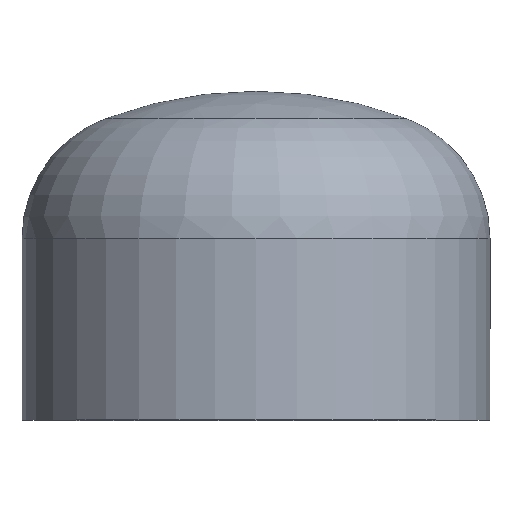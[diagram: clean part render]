
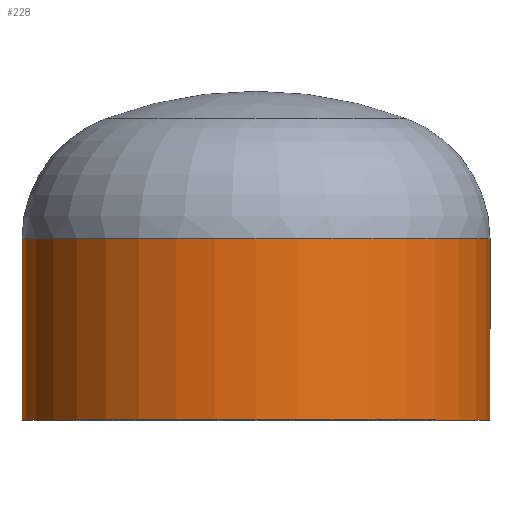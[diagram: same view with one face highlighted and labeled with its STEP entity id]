
A CAD part, top view. The second image highlights one B-rep face of the part: STEP entity #228.
In plain terms, the highlighted cylindrical face has radius 109.55 mm (diameter 219.1 mm), a partial arc.
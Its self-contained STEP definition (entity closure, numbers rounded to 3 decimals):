
#5 = AXIS2_PLACEMENT_3D ( 'NONE', #360, #246, #151 ) ;
#33 = VERTEX_POINT ( 'NONE', #238 ) ;
#38 = AXIS2_PLACEMENT_3D ( 'NONE', #95, #94, #88 ) ;
#51 = EDGE_CURVE ( 'NONE', #181, #287, #323, .T. ) ;
#56 = CARTESIAN_POINT ( 'NONE',  ( 109.55, 85., 0. ) ) ;
#79 = VECTOR ( 'NONE', #194, 1000. ) ;
#84 = VECTOR ( 'NONE', #250, 1000. ) ;
#85 = ORIENTED_EDGE ( 'NONE', *, *, #51, .T. ) ;
#88 = DIRECTION ( 'NONE',  ( 1., 0., 0. ) ) ;
#94 = DIRECTION ( 'NONE',  ( 0., -1., 0. ) ) ;
#95 = CARTESIAN_POINT ( 'NONE',  ( 0., 85., 0. ) ) ;
#97 = CARTESIAN_POINT ( 'NONE',  ( 0., 0., 0. ) ) ;
#99 = LINE ( 'NONE', #304, #84 ) ;
#115 = CYLINDRICAL_SURFACE ( 'NONE', #5, 109.55 ) ;
#127 = DIRECTION ( 'NONE',  ( 1., 0., 0. ) ) ;
#144 = AXIS2_PLACEMENT_3D ( 'NONE', #97, #305, #127 ) ;
#151 = DIRECTION ( 'NONE',  ( 1., 0., 0. ) ) ;
#172 = LINE ( 'NONE', #225, #79 ) ;
#173 = EDGE_LOOP ( 'NONE', ( #85, #209, #272, #303 ) ) ;
#180 = CIRCLE ( 'NONE', #144, 109.55 ) ;
#181 = VERTEX_POINT ( 'NONE', #56 ) ;
#189 = VERTEX_POINT ( 'NONE', #296 ) ;
#194 = DIRECTION ( 'NONE',  ( 0., -1., 0. ) ) ;
#209 = ORIENTED_EDGE ( 'NONE', *, *, #331, .T. ) ;
#225 = CARTESIAN_POINT ( 'NONE',  ( 109.55, 0., 0. ) ) ;
#228 = ADVANCED_FACE ( 'NONE', ( #354 ), #115, .T. ) ;
#238 = CARTESIAN_POINT ( 'NONE',  ( 109.55, 0., 0. ) ) ;
#246 = DIRECTION ( 'NONE',  ( 0., -1., 0. ) ) ;
#250 = DIRECTION ( 'NONE',  ( 0., -1., 0. ) ) ;
#272 = ORIENTED_EDGE ( 'NONE', *, *, #327, .F. ) ;
#287 = VERTEX_POINT ( 'NONE', #361 ) ;
#296 = CARTESIAN_POINT ( 'NONE',  ( -109.55, 0., 0. ) ) ;
#303 = ORIENTED_EDGE ( 'NONE', *, *, #348, .F. ) ;
#304 = CARTESIAN_POINT ( 'NONE',  ( -109.55, 0., 0. ) ) ;
#305 = DIRECTION ( 'NONE',  ( 0., -1., 0. ) ) ;
#323 = CIRCLE ( 'NONE', #38, 109.55 ) ;
#327 = EDGE_CURVE ( 'NONE', #33, #189, #180, .T. ) ;
#331 = EDGE_CURVE ( 'NONE', #287, #189, #99, .T. ) ;
#348 = EDGE_CURVE ( 'NONE', #181, #33, #172, .T. ) ;
#354 = FACE_OUTER_BOUND ( 'NONE', #173, .T. ) ;
#360 = CARTESIAN_POINT ( 'NONE',  ( 0., 0., 0. ) ) ;
#361 = CARTESIAN_POINT ( 'NONE',  ( -109.55, 85., 0. ) ) ;
